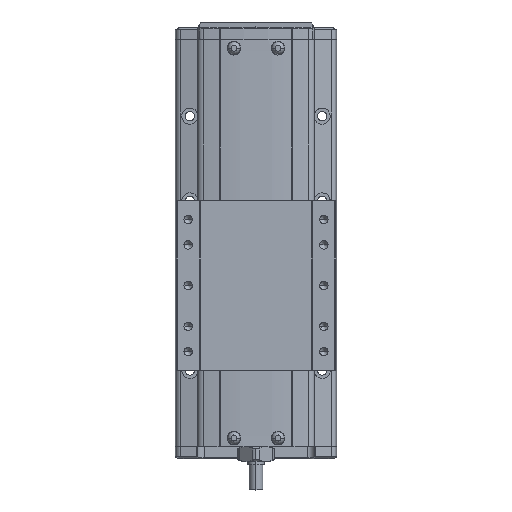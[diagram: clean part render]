
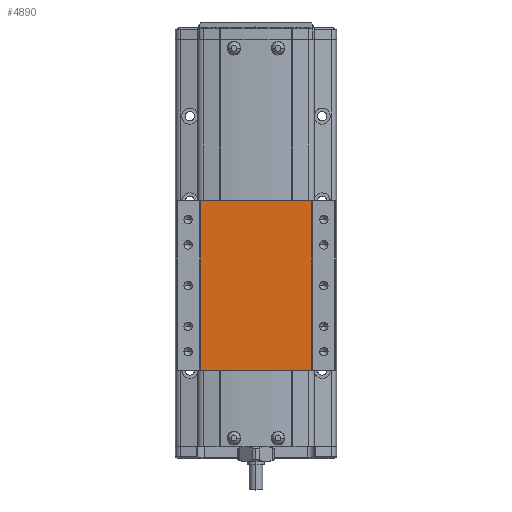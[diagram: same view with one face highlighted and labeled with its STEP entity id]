
A CAD part, top view. The second image highlights one B-rep face of the part: STEP entity #4890.
In plain terms, the highlighted planar face has unit normal (0, 0, 1).
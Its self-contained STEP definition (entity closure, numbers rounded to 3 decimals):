
#4890=ADVANCED_FACE('',(#9906),#9907,.F.);
#9906=FACE_OUTER_BOUND('',#16427,.T.);
#9907=PLANE('',#16428);
#16427=EDGE_LOOP('',(#31148,#31149,#31150,#31151));
#16428=AXIS2_PLACEMENT_3D('',#31152,#31153,#31154);
#31148=ORIENTED_EDGE('',*,*,#35114,.F.);
#31149=ORIENTED_EDGE('',*,*,#37449,.F.);
#31150=ORIENTED_EDGE('',*,*,#34151,.F.);
#31151=ORIENTED_EDGE('',*,*,#32285,.T.);
#31152=CARTESIAN_POINT('',(0.,167.222,30.5));
#31153=DIRECTION('',(0.,0.,-1.0));
#31154=DIRECTION('',(-1.0,0.,0.));
#32285=EDGE_CURVE('',#38467,#38464,#38468,.T.);
#34151=EDGE_CURVE('',#38467,#41644,#41645,.T.);
#35114=EDGE_CURVE('',#43163,#38464,#43165,.T.);
#37449=EDGE_CURVE('',#41644,#43163,#46275,.T.);
#38464=VERTEX_POINT('',#47484);
#38467=VERTEX_POINT('',#47487);
#38468=LINE('',#47488,#47489);
#41644=VERTEX_POINT('',#52345);
#41645=LINE('',#52346,#52347);
#43163=VERTEX_POINT('',#54622);
#43165=LINE('',#54624,#54625);
#46275=LINE('',#59581,#59582);
#47484=CARTESIAN_POINT('',(32.876,267.222,30.5));
#47487=CARTESIAN_POINT('',(32.876,167.222,30.5));
#47488=CARTESIAN_POINT('',(32.876,167.222,30.5));
#47489=VECTOR('',#60699,10.0);
#52345=CARTESIAN_POINT('',(-32.876,167.222,30.5));
#52346=CARTESIAN_POINT('',(32.876,167.222,30.5));
#52347=VECTOR('',#62993,10.0);
#54622=CARTESIAN_POINT('',(-32.876,267.222,30.5));
#54624=CARTESIAN_POINT('',(32.876,267.222,30.5));
#54625=VECTOR('',#64093,10.0);
#59581=CARTESIAN_POINT('',(-32.876,167.222,30.5));
#59582=VECTOR('',#66512,10.0);
#60699=DIRECTION('',(0.,1.0,0.));
#62993=DIRECTION('',(-1.0,0.,0.));
#64093=DIRECTION('',(1.0,0.,0.));
#66512=DIRECTION('',(0.,1.0,0.));
